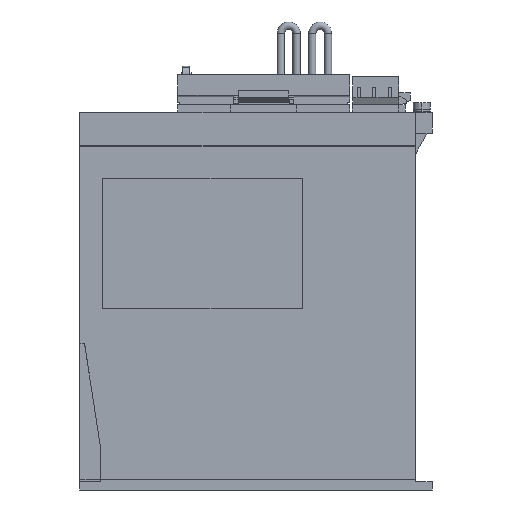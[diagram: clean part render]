
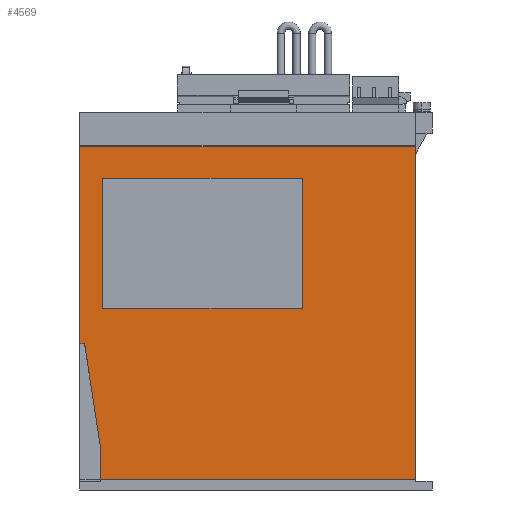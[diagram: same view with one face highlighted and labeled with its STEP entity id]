
A CAD part, left-side view. The second image highlights one B-rep face of the part: STEP entity #4569.
In plain terms, the highlighted planar face has unit normal (-1, 0, 0).
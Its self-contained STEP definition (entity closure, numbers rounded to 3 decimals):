
#2589 = VERTEX_POINT ( 'NONE', #23867 ) ;
#2591 = EDGE_CURVE ( 'NONE', #2589, #2592, #23865, .T. ) ;
#2592 = VERTEX_POINT ( 'NONE', #23861 ) ;
#4220 = VERTEX_POINT ( 'NONE', #26638 ) ;
#4222 = EDGE_CURVE ( 'NONE', #2589, #4220, #26698, .T. ) ;
#4487 = VERTEX_POINT ( 'NONE', #27096 ) ;
#4488 = VERTEX_POINT ( 'NONE', #27095 ) ;
#4489 = ORIENTED_EDGE ( 'NONE', *, *, #4490, .F. ) ;
#4490 = EDGE_CURVE ( 'NONE', #4491, #4487, #27157, .T. ) ;
#4491 = VERTEX_POINT ( 'NONE', #27153 ) ;
#4492 = ORIENTED_EDGE ( 'NONE', *, *, #4493, .F. ) ;
#4493 = EDGE_CURVE ( 'NONE', #4494, #4491, #27152, .T. ) ;
#4494 = VERTEX_POINT ( 'NONE', #27148 ) ;
#4495 = EDGE_LOOP ( 'NONE', ( #4554, #4555, #4558, #4561, #4564, #4540, #4541 ) ) ;
#4496 = VERTEX_POINT ( 'NONE', #27147 ) ;
#4524 = EDGE_CURVE ( 'NONE', #2592, #4496, #27165, .T. ) ;
#4540 = ORIENTED_EDGE ( 'NONE', *, *, #4524, .F. ) ;
#4541 = ORIENTED_EDGE ( 'NONE', *, *, #2591, .F. ) ;
#4552 = ORIENTED_EDGE ( 'NONE', *, *, #4553, .F. ) ;
#4553 = EDGE_CURVE ( 'NONE', #4488, #4494, #27243, .T. ) ;
#4554 = ORIENTED_EDGE ( 'NONE', *, *, #4222, .T. ) ;
#4555 = ORIENTED_EDGE ( 'NONE', *, *, #4556, .T. ) ;
#4556 = EDGE_CURVE ( 'NONE', #4220, #4557, #27239, .T. ) ;
#4557 = VERTEX_POINT ( 'NONE', #27235 ) ;
#4558 = ORIENTED_EDGE ( 'NONE', *, *, #4559, .F. ) ;
#4559 = EDGE_CURVE ( 'NONE', #4560, #4557, #27234, .T. ) ;
#4560 = VERTEX_POINT ( 'NONE', #27230 ) ;
#4561 = ORIENTED_EDGE ( 'NONE', *, *, #4562, .T. ) ;
#4562 = EDGE_CURVE ( 'NONE', #4560, #4563, #27229, .T. ) ;
#4563 = VERTEX_POINT ( 'NONE', #27225 ) ;
#4564 = ORIENTED_EDGE ( 'NONE', *, *, #4565, .T. ) ;
#4565 = EDGE_CURVE ( 'NONE', #4563, #4496, #27224, .T. ) ;
#4569 = ADVANCED_FACE ( 'NONE', ( #27281, #27280 ), #27279, .F. ) ;
#4570 = EDGE_LOOP ( 'NONE', ( #4571, #4489, #4492, #4552 ) ) ;
#4571 = ORIENTED_EDGE ( 'NONE', *, *, #4572, .F. ) ;
#4572 = EDGE_CURVE ( 'NONE', #4487, #4488, #27274, .T. ) ;
#23861 = CARTESIAN_POINT ( 'NONE',  ( -5., -155., 163.8 ) ) ;
#23862 = DIRECTION ( 'NONE',  ( 0., -1., 0. ) ) ;
#23863 = VECTOR ( 'NONE', #23862, 1000. ) ;
#23864 = CARTESIAN_POINT ( 'NONE',  ( -5., 5., 163.8 ) ) ;
#23865 = LINE ( 'NONE', #23864, #23863 ) ;
#23867 = CARTESIAN_POINT ( 'NONE',  ( -5., 5., 163.8 ) ) ;
#26638 = CARTESIAN_POINT ( 'NONE',  ( -5., 5., 69.7 ) ) ;
#26695 = DIRECTION ( 'NONE',  ( 0., 0., -1. ) ) ;
#26696 = VECTOR ( 'NONE', #26695, 1000. ) ;
#26697 = CARTESIAN_POINT ( 'NONE',  ( -5., 5., 352.68 ) ) ;
#26698 = LINE ( 'NONE', #26697, #26696 ) ;
#27095 = CARTESIAN_POINT ( 'NONE',  ( -5., -101., 148.6 ) ) ;
#27096 = CARTESIAN_POINT ( 'NONE',  ( -5., -101., 86.6 ) ) ;
#27147 = CARTESIAN_POINT ( 'NONE',  ( -5., -155., 5.2 ) ) ;
#27148 = CARTESIAN_POINT ( 'NONE',  ( -5., -6., 148.6 ) ) ;
#27149 = DIRECTION ( 'NONE',  ( 0., 0., -1. ) ) ;
#27150 = VECTOR ( 'NONE', #27149, 1000. ) ;
#27151 = CARTESIAN_POINT ( 'NONE',  ( -5., -6., 86.6 ) ) ;
#27152 = LINE ( 'NONE', #27151, #27150 ) ;
#27153 = CARTESIAN_POINT ( 'NONE',  ( -5., -6., 86.6 ) ) ;
#27154 = DIRECTION ( 'NONE',  ( 0., -1., 0. ) ) ;
#27155 = VECTOR ( 'NONE', #27154, 1000. ) ;
#27156 = CARTESIAN_POINT ( 'NONE',  ( -5., -6., 86.6 ) ) ;
#27157 = LINE ( 'NONE', #27156, #27155 ) ;
#27162 = DIRECTION ( 'NONE',  ( 0., 0., -1. ) ) ;
#27163 = VECTOR ( 'NONE', #27162, 1000. ) ;
#27164 = CARTESIAN_POINT ( 'NONE',  ( -5., -155., 352.68 ) ) ;
#27165 = LINE ( 'NONE', #27164, #27163 ) ;
#27222 = VECTOR ( 'NONE', #27287, 1000. ) ;
#27223 = CARTESIAN_POINT ( 'NONE',  ( -5., -5., 5.2 ) ) ;
#27224 = LINE ( 'NONE', #27223, #27222 ) ;
#27225 = CARTESIAN_POINT ( 'NONE',  ( -5., -5., 5.2 ) ) ;
#27226 = DIRECTION ( 'NONE',  ( 0., 0., -1. ) ) ;
#27227 = VECTOR ( 'NONE', #27226, 1000. ) ;
#27228 = CARTESIAN_POINT ( 'NONE',  ( -5., -5., 19.7 ) ) ;
#27229 = LINE ( 'NONE', #27228, #27227 ) ;
#27230 = CARTESIAN_POINT ( 'NONE',  ( -5., -5., 19.7 ) ) ;
#27231 = DIRECTION ( 'NONE',  ( 0., 0.152, 0.988 ) ) ;
#27232 = VECTOR ( 'NONE', #27231, 1000. ) ;
#27233 = CARTESIAN_POINT ( 'NONE',  ( -5., -5., 19.7 ) ) ;
#27234 = LINE ( 'NONE', #27233, #27232 ) ;
#27235 = CARTESIAN_POINT ( 'NONE',  ( -5., 2.692, 69.7 ) ) ;
#27236 = DIRECTION ( 'NONE',  ( 0., -1., 0. ) ) ;
#27237 = VECTOR ( 'NONE', #27236, 1000. ) ;
#27238 = CARTESIAN_POINT ( 'NONE',  ( -5., 5., 69.7 ) ) ;
#27239 = LINE ( 'NONE', #27238, #27237 ) ;
#27240 = DIRECTION ( 'NONE',  ( 0., 1., 0. ) ) ;
#27241 = VECTOR ( 'NONE', #27240, 1000. ) ;
#27242 = CARTESIAN_POINT ( 'NONE',  ( -5., -6., 148.6 ) ) ;
#27243 = LINE ( 'NONE', #27242, #27241 ) ;
#27271 = DIRECTION ( 'NONE',  ( 0., 0., 1. ) ) ;
#27272 = VECTOR ( 'NONE', #27271, 1000. ) ;
#27273 = CARTESIAN_POINT ( 'NONE',  ( -5., -101., 86.6 ) ) ;
#27274 = LINE ( 'NONE', #27273, #27272 ) ;
#27275 = DIRECTION ( 'NONE',  ( 0., 1., 0. ) ) ;
#27276 = DIRECTION ( 'NONE',  ( 1., 0., 0. ) ) ;
#27277 = CARTESIAN_POINT ( 'NONE',  ( -5., 5., 352.68 ) ) ;
#27278 = AXIS2_PLACEMENT_3D ( 'NONE', #27277, #27276, #27275 ) ;
#27279 = PLANE ( 'NONE',  #27278 ) ;
#27280 = FACE_OUTER_BOUND ( 'NONE', #4495, .T. ) ;
#27281 = FACE_BOUND ( 'NONE', #4570, .T. ) ;
#27287 = DIRECTION ( 'NONE',  ( 0., -1., 0. ) ) ;
